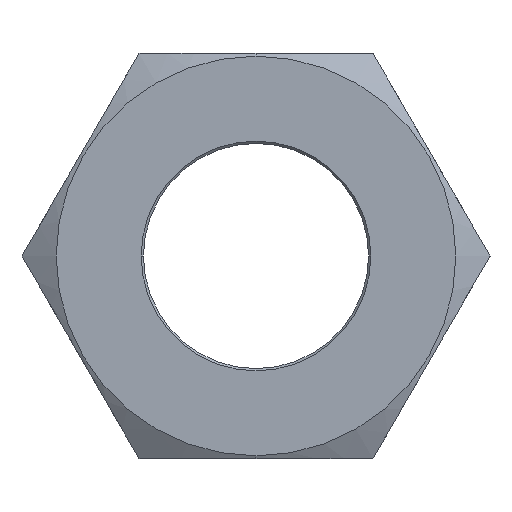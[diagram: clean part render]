
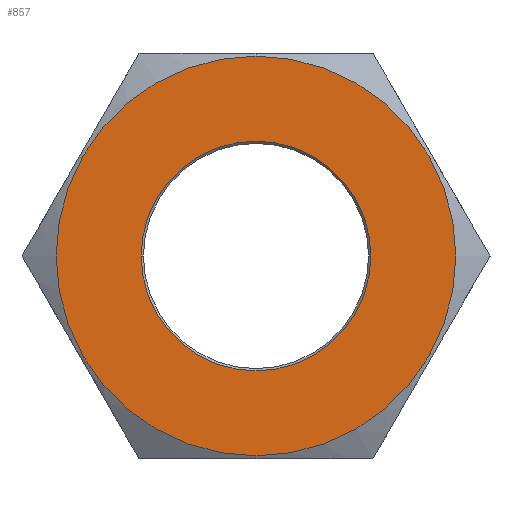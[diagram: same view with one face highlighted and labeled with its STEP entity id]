
A CAD part, left-side view. The second image highlights one B-rep face of the part: STEP entity #857.
In plain terms, the highlighted planar face has unit normal (-1, 0, 0) as drawn and (0, 0, 1) by its records, which use the part's own axes.
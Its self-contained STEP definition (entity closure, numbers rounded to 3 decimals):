
#141=CARTESIAN_POINT('',(17.75,0.0,12.25));
#142=VERTEX_POINT('',#141);
#151=CARTESIAN_POINT('',(-17.75,0.,12.25));
#152=VERTEX_POINT('',#151);
#153=CARTESIAN_POINT('',(0.,0.0,12.25));
#154=DIRECTION('',(0.0,0.0,1.0));
#155=DIRECTION('',(1.0,0.0,0.0));
#156=AXIS2_PLACEMENT_3D('',#153,#154,#155);
#157=CIRCLE('',#156,17.75);
#158=EDGE_CURVE('',#152,#142,#157,.T.);
#471=CARTESIAN_POINT('',(0.,10.2,12.25));
#472=VERTEX_POINT('',#471);
#480=CARTESIAN_POINT('',(0.,-10.2,12.25));
#481=VERTEX_POINT('',#480);
#488=CARTESIAN_POINT('',(0.,0.,12.25));
#489=DIRECTION('',(0.0,0.0,-1.0));
#490=DIRECTION('',(0.0,1.0,0.0));
#491=AXIS2_PLACEMENT_3D('',#488,#489,#490);
#492=CIRCLE('',#491,10.2);
#493=EDGE_CURVE('',#472,#481,#492,.T.);
#504=CARTESIAN_POINT('',(0.,0.,12.25));
#505=DIRECTION('',(0.0,0.0,-1.0));
#506=DIRECTION('',(0.0,1.0,0.0));
#507=AXIS2_PLACEMENT_3D('',#504,#505,#506);
#508=CIRCLE('',#507,10.2);
#509=EDGE_CURVE('',#481,#472,#508,.T.);
#728=CARTESIAN_POINT('',(0.,0.0,12.25));
#729=DIRECTION('',(0.0,0.0,1.0));
#730=DIRECTION('',(1.0,0.0,0.0));
#731=AXIS2_PLACEMENT_3D('',#728,#729,#730);
#732=CIRCLE('',#731,17.75);
#733=EDGE_CURVE('',#142,#152,#732,.T.);
#844=CARTESIAN_POINT('',(0.,0.,12.25));
#845=DIRECTION('',(0.0,0.0,1.0));
#846=DIRECTION('',(1.0,0.0,0.0));
#847=AXIS2_PLACEMENT_3D('',#844,#845,#846);
#848=PLANE('',#847);
#849=ORIENTED_EDGE('',*,*,#733,.T.);
#850=ORIENTED_EDGE('',*,*,#158,.T.);
#851=EDGE_LOOP('',(#849,#850));
#852=FACE_OUTER_BOUND('',#851,.T.);
#853=ORIENTED_EDGE('',*,*,#493,.T.);
#854=ORIENTED_EDGE('',*,*,#509,.T.);
#855=EDGE_LOOP('',(#853,#854));
#856=FACE_BOUND('',#855,.T.);
#857=ADVANCED_FACE('',(#852,#856),#848,.T.);
